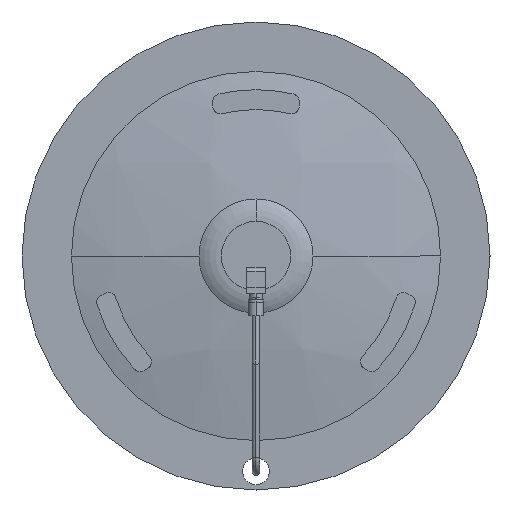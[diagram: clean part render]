
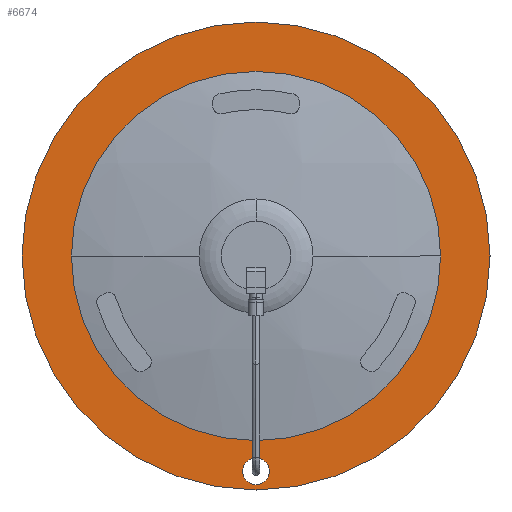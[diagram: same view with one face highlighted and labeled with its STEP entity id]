
A CAD part, front view. The second image highlights one B-rep face of the part: STEP entity #6674.
In plain terms, the highlighted planar face has unit normal (0, -1, 0).
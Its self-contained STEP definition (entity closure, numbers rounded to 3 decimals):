
#244 = VERTEX_POINT ( 'NONE', #4995 ) ;
#383 = DIRECTION ( 'NONE',  ( 0., -1., 0. ) ) ;
#545 = CARTESIAN_POINT ( 'NONE',  ( 0., -218.4, -162. ) ) ;
#564 = VERTEX_POINT ( 'NONE', #12905 ) ;
#626 = DIRECTION ( 'NONE',  ( 0., 0., -1. ) ) ;
#758 = DIRECTION ( 'NONE',  ( 0., -1., 0. ) ) ;
#958 = DIRECTION ( 'NONE',  ( 0., 0., -1. ) ) ;
#1283 = DIRECTION ( 'NONE',  ( 0., 1., 0. ) ) ;
#1392 = EDGE_CURVE ( 'NONE', #9884, #4780, #10263, .T. ) ;
#1664 = DIRECTION ( 'NONE',  ( 0., 0., -1. ) ) ;
#1717 = ORIENTED_EDGE ( 'NONE', *, *, #8262, .F. ) ;
#1894 = CIRCLE ( 'NONE', #11628, 176. ) ;
#2151 = CARTESIAN_POINT ( 'NONE',  ( -176., -218.4, 0. ) ) ;
#2857 = CARTESIAN_POINT ( 'NONE',  ( 0., -218.4, 176. ) ) ;
#3040 = FACE_OUTER_BOUND ( 'NONE', #8411, .T. ) ;
#3113 = PLANE ( 'NONE',  #6883 ) ;
#3255 = DIRECTION ( 'NONE',  ( 0., -1., 0. ) ) ;
#3815 = CIRCLE ( 'NONE', #7780, 176. ) ;
#4309 = AXIS2_PLACEMENT_3D ( 'NONE', #7959, #4919, #626 ) ;
#4425 = EDGE_LOOP ( 'NONE', ( #10443, #10786 ) ) ;
#4780 = VERTEX_POINT ( 'NONE', #4874 ) ;
#4825 = VERTEX_POINT ( 'NONE', #2857 ) ;
#4874 = CARTESIAN_POINT ( 'NONE',  ( -138.834, -218.4, 0. ) ) ;
#4919 = DIRECTION ( 'NONE',  ( 0., -1., 0. ) ) ;
#4995 = CARTESIAN_POINT ( 'NONE',  ( 0., -218.4, -152. ) ) ;
#5134 = CIRCLE ( 'NONE', #9100, 138.834 ) ;
#5245 = ORIENTED_EDGE ( 'NONE', *, *, #9664, .F. ) ;
#5360 = DIRECTION ( 'NONE',  ( 0., -1., 0. ) ) ;
#5538 = CARTESIAN_POINT ( 'NONE',  ( 138.834, -218.4, 0. ) ) ;
#6302 = ORIENTED_EDGE ( 'NONE', *, *, #13480, .F. ) ;
#6371 = AXIS2_PLACEMENT_3D ( 'NONE', #545, #758, #1664 ) ;
#6674 = ADVANCED_FACE ( 'NONE', ( #13503, #8279, #3040 ), #3113, .T. ) ;
#6883 = AXIS2_PLACEMENT_3D ( 'NONE', #2151, #3255, #958 ) ;
#7069 = EDGE_CURVE ( 'NONE', #9548, #4825, #3815, .T. ) ;
#7393 = DIRECTION ( 'NONE',  ( 0., 0., 1. ) ) ;
#7434 = DIRECTION ( 'NONE',  ( 0., 0., 1. ) ) ;
#7780 = AXIS2_PLACEMENT_3D ( 'NONE', #9657, #1283, #7434 ) ;
#7959 = CARTESIAN_POINT ( 'NONE',  ( 0., -218.4, 0. ) ) ;
#8262 = EDGE_CURVE ( 'NONE', #564, #244, #11900, .T. ) ;
#8279 = FACE_BOUND ( 'NONE', #4425, .T. ) ;
#8411 = EDGE_LOOP ( 'NONE', ( #5245, #10664 ) ) ;
#8491 = DIRECTION ( 'NONE',  ( 0., 1., 0. ) ) ;
#9100 = AXIS2_PLACEMENT_3D ( 'NONE', #10620, #5360, #9582 ) ;
#9548 = VERTEX_POINT ( 'NONE', #12961 ) ;
#9582 = DIRECTION ( 'NONE',  ( 0., 0., -1. ) ) ;
#9657 = CARTESIAN_POINT ( 'NONE',  ( 0., -218.4, 0. ) ) ;
#9664 = EDGE_CURVE ( 'NONE', #4825, #9548, #1894, .T. ) ;
#9677 = DIRECTION ( 'NONE',  ( 0., 0., -1. ) ) ;
#9884 = VERTEX_POINT ( 'NONE', #5538 ) ;
#10263 = CIRCLE ( 'NONE', #4309, 138.834 ) ;
#10443 = ORIENTED_EDGE ( 'NONE', *, *, #11782, .F. ) ;
#10551 = AXIS2_PLACEMENT_3D ( 'NONE', #12872, #383, #9677 ) ;
#10620 = CARTESIAN_POINT ( 'NONE',  ( 0., -218.4, 0. ) ) ;
#10664 = ORIENTED_EDGE ( 'NONE', *, *, #7069, .F. ) ;
#10786 = ORIENTED_EDGE ( 'NONE', *, *, #1392, .F. ) ;
#11036 = EDGE_LOOP ( 'NONE', ( #6302, #1717 ) ) ;
#11494 = CARTESIAN_POINT ( 'NONE',  ( 0., -218.4, 0. ) ) ;
#11628 = AXIS2_PLACEMENT_3D ( 'NONE', #11494, #8491, #7393 ) ;
#11782 = EDGE_CURVE ( 'NONE', #4780, #9884, #5134, .T. ) ;
#11900 = CIRCLE ( 'NONE', #10551, 10. ) ;
#12872 = CARTESIAN_POINT ( 'NONE',  ( 0., -218.4, -162. ) ) ;
#12905 = CARTESIAN_POINT ( 'NONE',  ( 0., -218.4, -172. ) ) ;
#12961 = CARTESIAN_POINT ( 'NONE',  ( 0., -218.4, -176. ) ) ;
#13229 = CIRCLE ( 'NONE', #6371, 10. ) ;
#13480 = EDGE_CURVE ( 'NONE', #244, #564, #13229, .T. ) ;
#13503 = FACE_BOUND ( 'NONE', #11036, .T. ) ;
